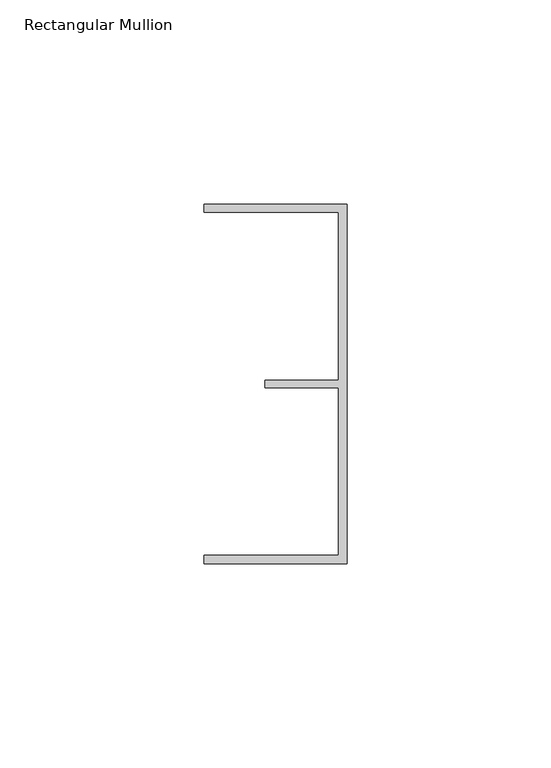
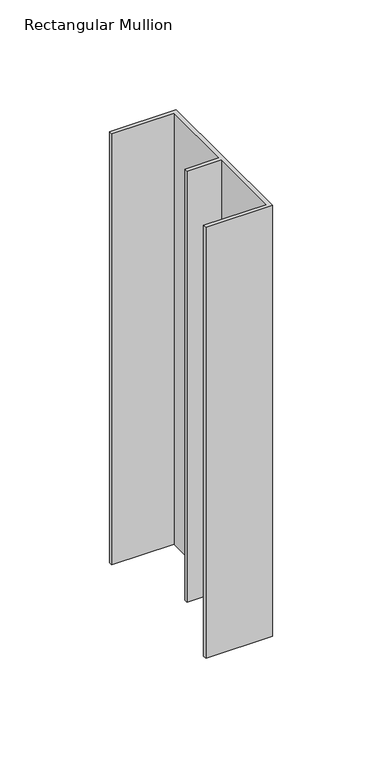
"""IFC4 building model written with IfcOpenShell, lengths in millimetres: member geometry, Rectangular Mullion : CEILING_TRACK_CAP 94-KLP00-P80-SD20ALU."""

from ifc_helpers import new_model, si_unit, frame, origin, place, context, project, spatial, polyline, outline, extrude, source, transform, mapped, element, save


def rectangular_mullion_4e6522d5(model_context):
    return source(origin(), model_context, "Body", "SweptSolid", [
        extrude(outline(polyline([(0.0, 44.0), (0.0, -44.0), (-35.0, -44.0), (-35.0, -42.0), (-2.0, -42.0), (-2.0, -0.9316478), (-20.0, -0.9316478), (-20.0, 0.9316478), (-2.0, 0.9316478), (-2.0, 42.0), (-35.0, 42.0), (-35.0, 44.0), (0.0, 44.0)])), frame((0.0, 0.0, -240.0), z_axis=(0.0, 0.0, 1.0), x_axis=(1.0, 0.0, 0.0)), (0.0, 0.0, 1.0), 240.0),
    ])


if __name__ == "__main__":
    model = new_model("IFC4")
    model_context = context("Model", 3, world=origin())
    ifc_project = project(units=[si_unit("LENGTHUNIT", "METRE", prefix="MILLI")], contexts=[model_context])
    site = spatial("IfcSite", under=ifc_project)
    building = spatial("IfcBuilding", under=site)
    placement = place(None, origin())
    rectangular_mullion_shape = rectangular_mullion_4e6522d5(model_context)
    element("IfcMember", 1, ObjectType="Rectangular Mullion : CEILING_TRACK_CAP 94-KLP00-P80-SD20ALU", at=placement, inside=building, context=model_context, shape_type="MappedRepresentation", body=[
        mapped(rectangular_mullion_shape, transform((0.0, 0.0, 0.0), x_axis=(1.0, 0.0, 0.0), y_axis=(0.0, 1.0, 0.0), z_axis=(0.0, 0.0, 1.0))),
    ])
    save(model, "model.ifc")
